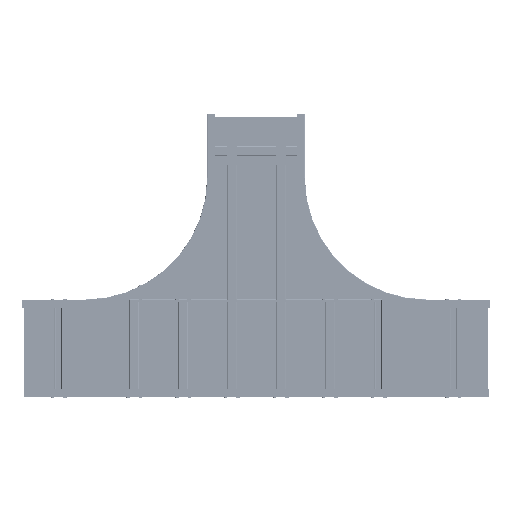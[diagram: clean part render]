
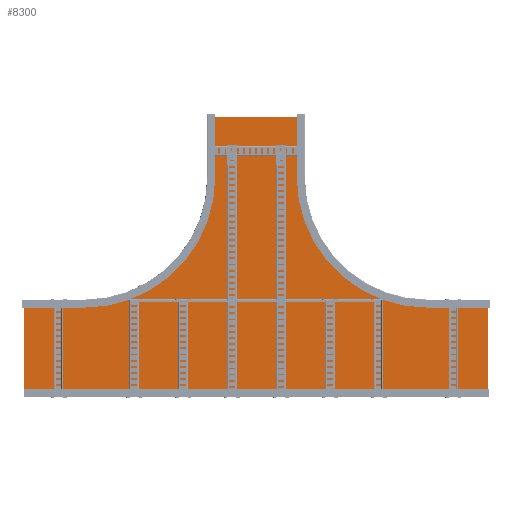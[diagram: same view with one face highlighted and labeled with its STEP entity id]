
A CAD part, front view. The second image highlights one B-rep face of the part: STEP entity #8300.
In plain terms, the highlighted planar face has unit normal (0, -1, 0).
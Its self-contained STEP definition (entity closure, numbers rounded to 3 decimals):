
#420 = CIRCLE ( 'NONE', #97472, 493.8 ) ;
#707 = EDGE_CURVE ( 'NONE', #129052, #76180, #38296, .T. ) ;
#5081 = VECTOR ( 'NONE', #126219, 1000. ) ;
#8300 = ADVANCED_FACE ( 'NONE', ( #66146 ), #169577, .F. ) ;
#8782 = EDGE_LOOP ( 'NONE', ( #43202, #60857, #190207, #44303, #102253, #30575, #155389, #95108, #87575, #110606, #62697, #135548 ) ) ;
#11165 = CIRCLE ( 'NONE', #72725, 493.8 ) ;
#11619 = LINE ( 'NONE', #38819, #125314 ) ;
#16240 = LINE ( 'NONE', #29161, #93615 ) ;
#16936 = LINE ( 'NONE', #39884, #94323 ) ;
#22351 = CARTESIAN_POINT ( 'NONE',  ( 950., -1., 1143.994 ) ) ;
#27154 = VERTEX_POINT ( 'NONE', #37272 ) ;
#27228 = DIRECTION ( 'NONE',  ( 0., 0., 1. ) ) ;
#27422 = DIRECTION ( 'NONE',  ( 0., -1., 0. ) ) ;
#27465 = CARTESIAN_POINT ( 'NONE',  ( -690.3, -1., 257.2 ) ) ;
#27914 = VECTOR ( 'NONE', #86390, 1000. ) ;
#29161 = CARTESIAN_POINT ( 'NONE',  ( -196.5, -1., 257.2 ) ) ;
#30575 = ORIENTED_EDGE ( 'NONE', *, *, #106880, .F. ) ;
#30813 = EDGE_CURVE ( 'NONE', #34828, #27154, #41687, .T. ) ;
#30868 = AXIS2_PLACEMENT_3D ( 'NONE', #172024, #169374, #169150 ) ;
#31117 = VERTEX_POINT ( 'NONE', #36584 ) ;
#33413 = AXIS2_PLACEMENT_3D ( 'NONE', #27465, #27422, #27228 ) ;
#33485 = CARTESIAN_POINT ( 'NONE',  ( -196.5, -1., 0. ) ) ;
#34217 = DIRECTION ( 'NONE',  ( 1., 0., 0. ) ) ;
#34828 = VERTEX_POINT ( 'NONE', #126931 ) ;
#36584 = CARTESIAN_POINT ( 'NONE',  ( 196.5, -1., 0. ) ) ;
#36665 = CARTESIAN_POINT ( 'NONE',  ( -690.3, -1., 751. ) ) ;
#37272 = CARTESIAN_POINT ( 'NONE',  ( -950., -1., 750.994 ) ) ;
#38296 = CIRCLE ( 'NONE', #75341, 493.8 ) ;
#38550 = CARTESIAN_POINT ( 'NONE',  ( 690.3, -1., 751. ) ) ;
#38575 = DIRECTION ( 'NONE',  ( -1., 0., 0. ) ) ;
#38819 = CARTESIAN_POINT ( 'NONE',  ( 950., -1., 750.994 ) ) ;
#39090 = EDGE_CURVE ( 'NONE', #160047, #129052, #11619, .T. ) ;
#39884 = CARTESIAN_POINT ( 'NONE',  ( 950., -1., 1143.994 ) ) ;
#41687 = LINE ( 'NONE', #84295, #119255 ) ;
#43202 = ORIENTED_EDGE ( 'NONE', *, *, #140415, .F. ) ;
#44303 = ORIENTED_EDGE ( 'NONE', *, *, #39090, .F. ) ;
#44678 = DIRECTION ( 'NONE',  ( 0., 0., 1. ) ) ;
#45309 = CARTESIAN_POINT ( 'NONE',  ( 950., -1., 750.994 ) ) ;
#49111 = DIRECTION ( 'NONE',  ( 0., -1., 0. ) ) ;
#60256 = EDGE_CURVE ( 'NONE', #91085, #116240, #164176, .T. ) ;
#60857 = ORIENTED_EDGE ( 'NONE', *, *, #74692, .F. ) ;
#62697 = ORIENTED_EDGE ( 'NONE', *, *, #188360, .F. ) ;
#64613 = VERTEX_POINT ( 'NONE', #22351 ) ;
#64681 = CARTESIAN_POINT ( 'NONE',  ( -950., -1., 1143.994 ) ) ;
#66146 = FACE_OUTER_BOUND ( 'NONE', #8782, .T. ) ;
#70441 = CARTESIAN_POINT ( 'NONE',  ( -196.5, -1., 0. ) ) ;
#72725 = AXIS2_PLACEMENT_3D ( 'NONE', #90292, #198342, #105895 ) ;
#74193 = CARTESIAN_POINT ( 'NONE',  ( 692.8, -1., 750.994 ) ) ;
#74692 = EDGE_CURVE ( 'NONE', #76180, #187247, #420, .T. ) ;
#75341 = AXIS2_PLACEMENT_3D ( 'NONE', #159598, #158296, #148047 ) ;
#76180 = VERTEX_POINT ( 'NONE', #38550 ) ;
#79884 = CARTESIAN_POINT ( 'NONE',  ( -950., -1., 1143.994 ) ) ;
#82449 = LINE ( 'NONE', #33485, #5081 ) ;
#82660 = DIRECTION ( 'NONE',  ( -1., 0., 0. ) ) ;
#84295 = CARTESIAN_POINT ( 'NONE',  ( -950., -1., 750.994 ) ) ;
#86390 = DIRECTION ( 'NONE',  ( 0., 0., 1. ) ) ;
#87575 = ORIENTED_EDGE ( 'NONE', *, *, #101087, .F. ) ;
#90292 = CARTESIAN_POINT ( 'NONE',  ( -690.3, -1., 257.2 ) ) ;
#91085 = VERTEX_POINT ( 'NONE', #188314 ) ;
#92315 = LINE ( 'NONE', #64681, #174511 ) ;
#93615 = VECTOR ( 'NONE', #44678, 1000. ) ;
#94323 = VECTOR ( 'NONE', #132608, 1000. ) ;
#95108 = ORIENTED_EDGE ( 'NONE', *, *, #30813, .F. ) ;
#97472 = AXIS2_PLACEMENT_3D ( 'NONE', #141827, #49111, #157387 ) ;
#100372 = VECTOR ( 'NONE', #151821, 1000. ) ;
#101087 = EDGE_CURVE ( 'NONE', #116240, #34828, #11165, .T. ) ;
#102253 = ORIENTED_EDGE ( 'NONE', *, *, #177935, .F. ) ;
#105895 = DIRECTION ( 'NONE',  ( 0., 0., 1. ) ) ;
#106880 = EDGE_CURVE ( 'NONE', #157614, #64613, #92315, .T. ) ;
#110606 = ORIENTED_EDGE ( 'NONE', *, *, #60256, .F. ) ;
#116240 = VERTEX_POINT ( 'NONE', #36665 ) ;
#119255 = VECTOR ( 'NONE', #82660, 1000. ) ;
#125314 = VECTOR ( 'NONE', #38575, 1000. ) ;
#126219 = DIRECTION ( 'NONE',  ( -1., 0., 0. ) ) ;
#126931 = CARTESIAN_POINT ( 'NONE',  ( -692.8, -1., 750.994 ) ) ;
#129052 = VERTEX_POINT ( 'NONE', #74193 ) ;
#132608 = DIRECTION ( 'NONE',  ( 0., 0., -1. ) ) ;
#133250 = VERTEX_POINT ( 'NONE', #70441 ) ;
#135548 = ORIENTED_EDGE ( 'NONE', *, *, #177187, .F. ) ;
#136225 = CARTESIAN_POINT ( 'NONE',  ( 196.5, -1., 257.2 ) ) ;
#140415 = EDGE_CURVE ( 'NONE', #187247, #31117, #187434, .T. ) ;
#141827 = CARTESIAN_POINT ( 'NONE',  ( 690.3, -1., 257.2 ) ) ;
#146445 = LINE ( 'NONE', #163414, #27914 ) ;
#148047 = DIRECTION ( 'NONE',  ( 0., 0., -1. ) ) ;
#151821 = DIRECTION ( 'NONE',  ( 0., 0., -1. ) ) ;
#155389 = ORIENTED_EDGE ( 'NONE', *, *, #196037, .F. ) ;
#157387 = DIRECTION ( 'NONE',  ( 0., 0., -1. ) ) ;
#157614 = VERTEX_POINT ( 'NONE', #79884 ) ;
#158296 = DIRECTION ( 'NONE',  ( 0., -1., 0. ) ) ;
#159598 = CARTESIAN_POINT ( 'NONE',  ( 690.3, -1., 257.2 ) ) ;
#160047 = VERTEX_POINT ( 'NONE', #45309 ) ;
#162263 = CARTESIAN_POINT ( 'NONE',  ( 196.5, -1., 257.2 ) ) ;
#163414 = CARTESIAN_POINT ( 'NONE',  ( -950., -1., 1143.994 ) ) ;
#164176 = CIRCLE ( 'NONE', #33413, 493.8 ) ;
#169150 = DIRECTION ( 'NONE',  ( 0., 0., 1. ) ) ;
#169374 = DIRECTION ( 'NONE',  ( 0., 1., 0. ) ) ;
#169577 = PLANE ( 'NONE',  #30868 ) ;
#172024 = CARTESIAN_POINT ( 'NONE',  ( -690.3, -1., 257.2 ) ) ;
#174511 = VECTOR ( 'NONE', #34217, 1000. ) ;
#177187 = EDGE_CURVE ( 'NONE', #31117, #133250, #82449, .T. ) ;
#177935 = EDGE_CURVE ( 'NONE', #64613, #160047, #16936, .T. ) ;
#187247 = VERTEX_POINT ( 'NONE', #162263 ) ;
#187434 = LINE ( 'NONE', #136225, #100372 ) ;
#188314 = CARTESIAN_POINT ( 'NONE',  ( -196.5, -1., 257.2 ) ) ;
#188360 = EDGE_CURVE ( 'NONE', #133250, #91085, #16240, .T. ) ;
#190207 = ORIENTED_EDGE ( 'NONE', *, *, #707, .F. ) ;
#196037 = EDGE_CURVE ( 'NONE', #27154, #157614, #146445, .T. ) ;
#198342 = DIRECTION ( 'NONE',  ( 0., -1., 0. ) ) ;
